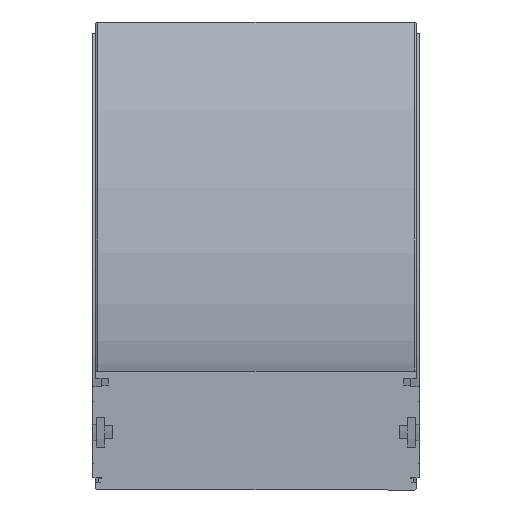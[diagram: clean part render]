
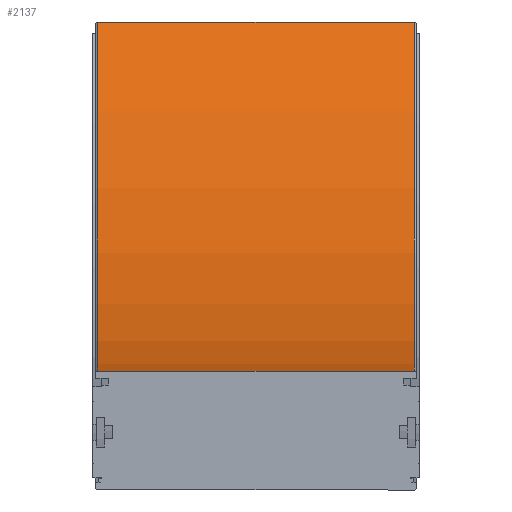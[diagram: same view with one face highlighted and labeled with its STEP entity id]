
A CAD part, front view. The second image highlights one B-rep face of the part: STEP entity #2137.
In plain terms, the highlighted cylindrical face has radius 818 mm (diameter 1636 mm), a partial arc.
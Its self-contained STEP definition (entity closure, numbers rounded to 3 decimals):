
#62=CYLINDRICAL_SURFACE('',#2337,818.);
#225=CIRCLE('',#2336,818.);
#226=CIRCLE('',#2338,818.);
#336=FACE_OUTER_BOUND('',#454,.T.);
#454=EDGE_LOOP('',(#1769,#1770,#1771,#1772));
#615=LINE('',#8201,#793);
#616=LINE('',#8203,#794);
#793=VECTOR('',#2838,10.);
#794=VECTOR('',#2839,10.);
#1005=VERTEX_POINT('',#8194);
#1006=VERTEX_POINT('',#8196);
#1007=VERTEX_POINT('',#8200);
#1008=VERTEX_POINT('',#8202);
#1304=EDGE_CURVE('',#1005,#1006,#225,.T.);
#1305=EDGE_CURVE('',#1007,#1005,#615,.T.);
#1306=EDGE_CURVE('',#1008,#1006,#616,.T.);
#1307=EDGE_CURVE('',#1007,#1008,#226,.T.);
#1769=ORIENTED_EDGE('',*,*,#1305,.T.);
#1770=ORIENTED_EDGE('',*,*,#1304,.T.);
#1771=ORIENTED_EDGE('',*,*,#1306,.F.);
#1772=ORIENTED_EDGE('',*,*,#1307,.F.);
#2137=ADVANCED_FACE('',(#336),#62,.F.);
#2336=AXIS2_PLACEMENT_3D('',#8198,#2834,#2835);
#2337=AXIS2_PLACEMENT_3D('',#8199,#2836,#2837);
#2338=AXIS2_PLACEMENT_3D('',#8204,#2840,#2841);
#2834=DIRECTION('center_axis',(1.,0.,0.));
#2835=DIRECTION('ref_axis',(0.,0.,-1.));
#2836=DIRECTION('center_axis',(1.,0.,0.));
#2837=DIRECTION('ref_axis',(0.,0.,-1.));
#2838=DIRECTION('',(1.,0.,0.));
#2839=DIRECTION('',(1.,0.,0.));
#2840=DIRECTION('center_axis',(1.,0.,0.));
#2841=DIRECTION('ref_axis',(0.,0.,-1.));
#8194=CARTESIAN_POINT('',(108.5,0.,42.));
#8196=CARTESIAN_POINT('',(108.5,578.413,281.587));
#8198=CARTESIAN_POINT('Origin',(108.5,0.,860.));
#8199=CARTESIAN_POINT('Origin',(-54.25,0.,860.));
#8200=CARTESIAN_POINT('',(-108.5,0.,42.));
#8201=CARTESIAN_POINT('',(-108.5,0.,42.));
#8202=CARTESIAN_POINT('',(-108.5,578.413,281.587));
#8203=CARTESIAN_POINT('',(-108.5,578.413,281.587));
#8204=CARTESIAN_POINT('Origin',(-108.5,0.,860.));
